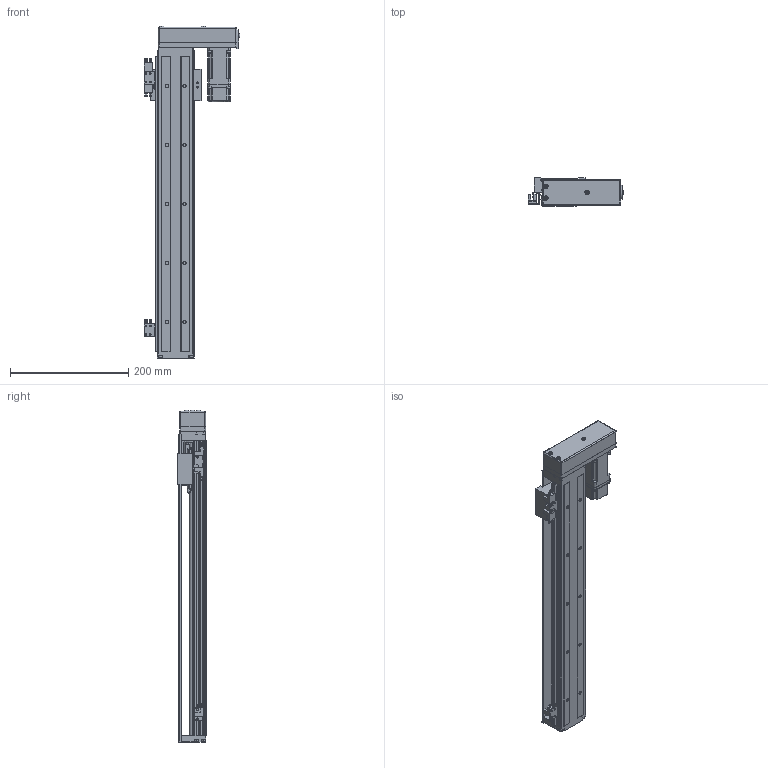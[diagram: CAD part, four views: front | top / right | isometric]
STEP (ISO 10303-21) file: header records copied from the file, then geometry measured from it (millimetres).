
FILE_DESCRIPTION (( 'STEP AP214' ), '1' );
FILE_NAME ('SFKK60-500A1-HL0C.STEP', '2022-05-03T07:55:30', ( '微软用户' ), ( '微软中国' ), 'SwSTEP 2.0', 'SolidWorks 2018', '' );
FILE_SCHEMA (( 'AUTOMOTIVE_DESIGN' ));
Length unit declared in the file: millimetre
Products named in the file (12): 蚐郲; SFKK60-LR 憤癹寢耋_500; SFKK-60-CU_500; SFKK60-A1-C; SFKK60-H0-P10侂狟100W耜蚾; 极限轨道与开关固定座组合_500; 带盖挡光片：KK-60-S2-D1; SX674嫖萇羲壽; SFKK60-500A1-HL0C; SFKK60-H0_500; 开关固定座：KK-674S2-F; hexagon socket countersunk head screws gb_GB_FASTENER_SCREWS_HSCHS M3X8-N
Assembly tree (17 placements, depth 3):
  SFKK60-500A1-HL0C
    SFKK60-H0_500
    SFKK60-A1-C
    蚐郲
    SFKK-60-CU_500
    hexagon socket countersunk head screws gb_GB_FASTENER_SCREWS_HSCHS M3X8-N  x4
    带盖挡光片：KK-60-S2-D1
    极限轨道与开关固定座组合_500
      SFKK60-LR 憤癹寢耋_500
      开关固定座：KK-674S2-F  x2
    SX674嫖萇羲壽  x3
    SFKK60-H0-P10侂狟100W耜蚾
Bounding box: 162.2 x 48 x 562.7 mm (x, y, z)
Volume: 649412.3 mm3; surface area: 371845.4 mm2
Topology: 40 solids, 69 shells, 4283 faces, 10727 edges, 6634 vertices
Faces by surface type: cylinder 1670, plane 1498, cone 907, torus 91, bspline 91, sphere 26
Entity records: 168780 total; most frequent: CARTESIAN_POINT 30095, DIRECTION 21355, ORIENTED_EDGE 20146, EDGE_CURVE 10135, AXIS2_PLACEMENT_3D 7935, VERTEX_POINT 6337, LINE 5485, VECTOR 5485
